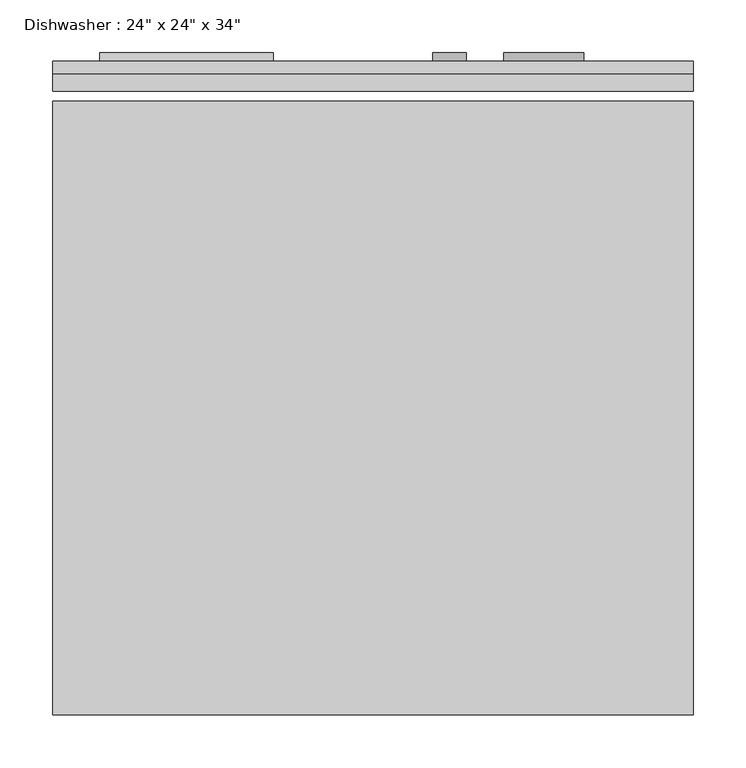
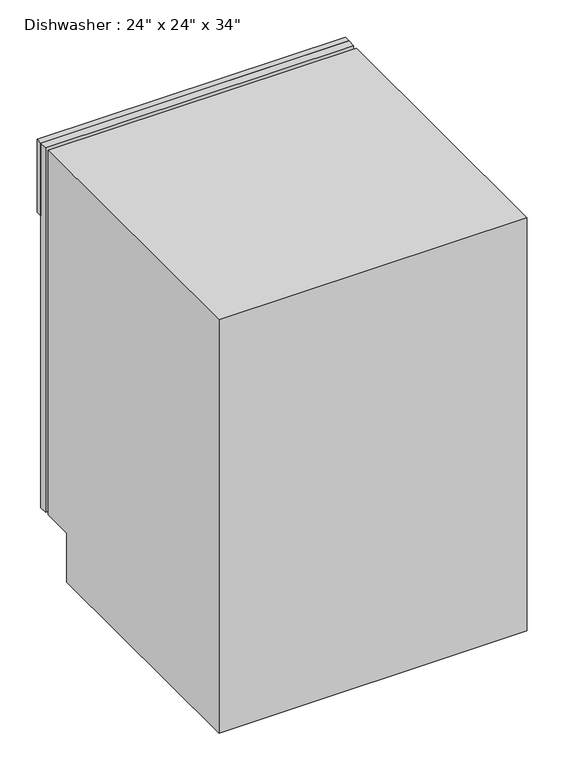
"""IFC4 building model written with IfcOpenShell, lengths in millimetres: proxy geometry."""

from ifc_helpers import new_model, si_unit, point, frame, frame_2d, origin, place, context, project, spatial, polyline, circle_curve, trimmed, segment, composite_curve, outline, extrude, source, transform, mapped, element, save


def proxy_3c49123c(model_context):
    return source(origin(), model_context, "Body", "SweptSolid", [
        extrude(outline(polyline([(687.1174685, 38.3504352), (687.1174685, 22.4754352), (77.5174685, 22.4754352), (77.5174685, 38.3504352), (687.1174685, 38.3504352)])), frame((0.0, 0.0, 101.6), z_axis=(0.0, 0.0, 1.0), x_axis=(1.0, 0.0, 0.0)), (0.0, 0.0, 1.0), 762.0),
        extrude(outline(polyline([(687.1174685, 38.3504352), (77.5174685, 38.3504352), (77.5174685, 51.0504352), (687.1174685, 51.0504352), (687.1174685, 38.3504352)])), frame((0.0, 0.0, 711.2), z_axis=(0.0, 0.0, 1.0), x_axis=(1.0, 0.0, 0.0)), (0.0, 0.0, 1.0), 152.4),
        extrude(outline(polyline([(-571.2495648, 0.0), (-571.2495648, 863.6), (12.9504352, 863.6), (12.9504352, 101.6), (-50.5495648, 101.6), (-50.5495648, 0.0), (-571.2495648, 0.0)])), frame((77.5174685, 0.0, 0.0), z_axis=(1.0, 0.0, 0.0), x_axis=(0.0, 1.0, 0.0)), (0.0, 0.0, 1.0), 609.6),
        extrude(outline(polyline([(287.6378068, 59.1863727), (287.6378068, 51.0504352), (122.5378068, 51.0504352), (122.5378068, 59.1863727), (287.6378068, 59.1863727)])), frame((0.0, 0.0, 780.0846419), z_axis=(0.0, 0.0, 1.0), x_axis=(1.0, 0.0, 0.0)), (0.0, 0.0, 1.0), 50.8),
        extrude(outline(composite_curve([segment(trimmed(circle_curve(frame_2d((780.0846419, 544.7247133)), 38.1), [point((780.0846419, 506.6247133))], [point((780.0846419, 582.8247133))], False, "CARTESIAN"), True, "CONTINUOUS"), segment(trimmed(circle_curve(frame_2d((780.0846419, 544.7247133)), 38.1), [point((780.0846419, 582.8247133))], [point((780.0846419, 506.6247133))], False, "CARTESIAN"), True, "CONTINUOUS")], self_intersect=False)), frame((0.0, 51.0504352, 0.0), z_axis=(0.0, 1.0, 0.0), x_axis=(0.0, 0.0, 1.0)), (0.0, 0.0, 1.0), 8.1359375),
        extrude(outline(composite_curve([segment(trimmed(circle_curve(frame_2d((780.0846419, 455.195318)), 15.875), [point((780.0846419, 439.320318))], [point((780.0846419, 471.070318))], False, "CARTESIAN"), True, "CONTINUOUS"), segment(trimmed(circle_curve(frame_2d((780.0846419, 455.195318)), 15.875), [point((780.0846419, 471.070318))], [point((780.0846419, 439.320318))], False, "CARTESIAN"), True, "CONTINUOUS")], self_intersect=False)), frame((0.0, 51.0504352, 0.0), z_axis=(0.0, 1.0, 0.0), x_axis=(0.0, 0.0, 1.0)), (0.0, 0.0, 1.0), 8.1359375),
    ])


if __name__ == "__main__":
    model = new_model("IFC4")
    model_context = context("Model", 3, world=origin())
    ifc_project = project(units=[si_unit("LENGTHUNIT", "METRE", prefix="MILLI")], contexts=[model_context])
    site = spatial("IfcSite", under=ifc_project)
    building = spatial("IfcBuilding", under=site)
    placement = place(None, origin())
    proxy_shape = proxy_3c49123c(model_context)
    element("IfcBuildingElementProxy", 1, Name="Dishwasher : 24\" x 24\" x 34\"", ObjectType="Dishwasher : 24\" x 24\" x 34\"", at=placement, inside=building, context=model_context, shape_type="MappedRepresentation", body=[
        mapped(proxy_shape, transform((0.0, 0.0, 0.0), x_axis=(1.0, 0.0, 0.0), y_axis=(0.0, 1.0, 0.0), z_axis=(0.0, 0.0, 1.0))),
    ])
    save(model, "model.ifc")
